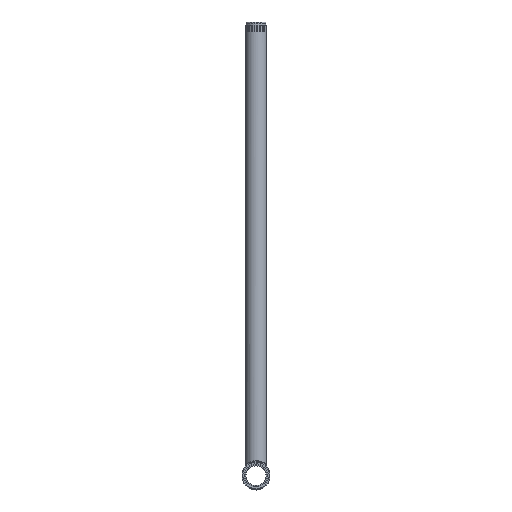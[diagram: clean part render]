
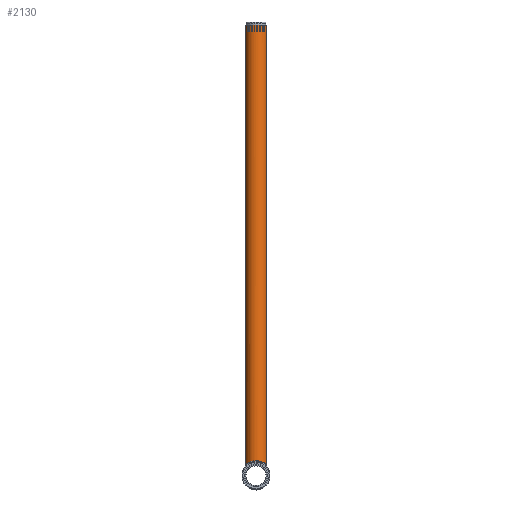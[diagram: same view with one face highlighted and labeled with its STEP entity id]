
A CAD part, top view. The second image highlights one B-rep face of the part: STEP entity #2130.
In plain terms, the highlighted cylindrical face has radius 16.85 mm (diameter 33.7 mm), a full revolution.
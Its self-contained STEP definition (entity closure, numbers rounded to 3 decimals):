
#122=FACE_BOUND('',#640,.T.);
#197=B_SPLINE_CURVE_WITH_KNOTS('',3,(#8190,#8191,#8192,#8193,#8194,#8195,
#8196,#8197,#8198,#8199,#8200,#8201,#8202,#8203,#8204,#8205,#8206,#8207,
#8208,#8209,#8210,#8211),.UNSPECIFIED.,.F.,.F.,(4,2,2,2,2,2,2,2,2,2,4),
(1.04,1.379,1.714,2.048,2.383,
2.717,3.052,3.386,3.721,4.056,
4.395),.UNSPECIFIED.);
#199=B_SPLINE_CURVE_WITH_KNOTS('',3,(#8241,#8242,#8243,#8244,#8245,#8246,
#8247,#8248,#8249,#8250,#8251,#8252,#8253,#8254,#8255,#8256,#8257,#8258,
#8259,#8260,#8261,#8262),.UNSPECIFIED.,.F.,.F.,(4,2,2,2,2,2,2,2,2,2,4),
(6.475,6.814,7.149,7.483,7.818,
8.152,8.487,8.821,9.156,9.49,
9.829),.UNSPECIFIED.);
#238=CYLINDRICAL_SURFACE('',#2309,16.85);
#355=CIRCLE('',#2304,16.85);
#359=CIRCLE('',#2310,16.85);
#360=CIRCLE('',#2311,16.85);
#488=FACE_OUTER_BOUND('',#639,.T.);
#639=EDGE_LOOP('',(#1801,#1802,#1803,#1804));
#640=EDGE_LOOP('',(#1805));
#1076=VERTEX_POINT('',#8188);
#1077=VERTEX_POINT('',#8189);
#1080=VERTEX_POINT('',#8239);
#1081=VERTEX_POINT('',#8240);
#1085=VERTEX_POINT('',#8298);
#1331=EDGE_CURVE('',#1076,#1077,#197,.T.);
#1335=EDGE_CURVE('',#1080,#1081,#199,.T.);
#1339=EDGE_CURVE('',#1080,#1077,#355,.T.);
#1343=EDGE_CURVE('',#1076,#1081,#359,.T.);
#1344=EDGE_CURVE('',#1085,#1085,#360,.T.);
#1801=ORIENTED_EDGE('',*,*,#1335,.T.);
#1802=ORIENTED_EDGE('',*,*,#1343,.F.);
#1803=ORIENTED_EDGE('',*,*,#1331,.T.);
#1804=ORIENTED_EDGE('',*,*,#1339,.F.);
#1805=ORIENTED_EDGE('',*,*,#1344,.F.);
#2130=ADVANCED_FACE('',(#488,#122),#238,.T.);
#2304=AXIS2_PLACEMENT_3D('',#8290,#2711,#2712);
#2309=AXIS2_PLACEMENT_3D('',#8296,#2721,#2722);
#2310=AXIS2_PLACEMENT_3D('',#8297,#2723,#2724);
#2311=AXIS2_PLACEMENT_3D('',#8299,#2725,#2726);
#2711=DIRECTION('center_axis',(0.,0.,1.));
#2712=DIRECTION('ref_axis',(-1.,0.,0.));
#2721=DIRECTION('center_axis',(0.,0.,1.));
#2722=DIRECTION('ref_axis',(-1.,0.,0.));
#2723=DIRECTION('center_axis',(0.,0.,1.));
#2724=DIRECTION('ref_axis',(-1.,0.,0.));
#2725=DIRECTION('center_axis',(0.,0.,-1.));
#2726=DIRECTION('ref_axis',(-1.,0.,0.));
#8188=CARTESIAN_POINT('',(-9.512,-13.908,709.));
#8189=CARTESIAN_POINT('',(-9.512,13.908,709.));
#8190=CARTESIAN_POINT('Ctrl Pts',(-9.512,-13.908,709.));
#8191=CARTESIAN_POINT('Ctrl Pts',(-10.388,-13.309,708.479));
#8192=CARTESIAN_POINT('Ctrl Pts',(-11.194,-12.635,707.954));
#8193=CARTESIAN_POINT('Ctrl Pts',(-12.625,-11.204,706.982));
#8194=CARTESIAN_POINT('Ctrl Pts',(-13.305,-10.395,706.497));
#8195=CARTESIAN_POINT('Ctrl Pts',(-14.523,-8.612,705.602));
#8196=CARTESIAN_POINT('Ctrl Pts',(-15.062,-7.636,705.193));
#8197=CARTESIAN_POINT('Ctrl Pts',(-15.942,-5.572,704.516));
#8198=CARTESIAN_POINT('Ctrl Pts',(-16.283,-4.48,704.248));
#8199=CARTESIAN_POINT('Ctrl Pts',(-16.738,-2.252,703.89));
#8200=CARTESIAN_POINT('Ctrl Pts',(-16.85,-1.115,703.8));
#8201=CARTESIAN_POINT('Ctrl Pts',(-16.85,1.115,703.8));
#8202=CARTESIAN_POINT('Ctrl Pts',(-16.738,2.252,703.89));
#8203=CARTESIAN_POINT('Ctrl Pts',(-16.283,4.48,704.248));
#8204=CARTESIAN_POINT('Ctrl Pts',(-15.942,5.572,704.516));
#8205=CARTESIAN_POINT('Ctrl Pts',(-15.062,7.636,705.193));
#8206=CARTESIAN_POINT('Ctrl Pts',(-14.523,8.612,705.602));
#8207=CARTESIAN_POINT('Ctrl Pts',(-13.305,10.395,706.497));
#8208=CARTESIAN_POINT('Ctrl Pts',(-12.625,11.204,706.982));
#8209=CARTESIAN_POINT('Ctrl Pts',(-11.194,12.635,707.954));
#8210=CARTESIAN_POINT('Ctrl Pts',(-10.388,13.309,708.479));
#8211=CARTESIAN_POINT('Ctrl Pts',(-9.512,13.908,709.));
#8239=CARTESIAN_POINT('',(9.512,13.908,709.));
#8240=CARTESIAN_POINT('',(9.512,-13.908,709.));
#8241=CARTESIAN_POINT('Ctrl Pts',(9.512,13.908,709.));
#8242=CARTESIAN_POINT('Ctrl Pts',(10.388,13.309,708.479));
#8243=CARTESIAN_POINT('Ctrl Pts',(11.194,12.635,707.954));
#8244=CARTESIAN_POINT('Ctrl Pts',(12.625,11.204,706.982));
#8245=CARTESIAN_POINT('Ctrl Pts',(13.305,10.395,706.497));
#8246=CARTESIAN_POINT('Ctrl Pts',(14.523,8.612,705.602));
#8247=CARTESIAN_POINT('Ctrl Pts',(15.062,7.636,705.193));
#8248=CARTESIAN_POINT('Ctrl Pts',(15.942,5.572,704.516));
#8249=CARTESIAN_POINT('Ctrl Pts',(16.283,4.48,704.248));
#8250=CARTESIAN_POINT('Ctrl Pts',(16.738,2.252,703.89));
#8251=CARTESIAN_POINT('Ctrl Pts',(16.85,1.115,703.8));
#8252=CARTESIAN_POINT('Ctrl Pts',(16.85,-1.115,703.8));
#8253=CARTESIAN_POINT('Ctrl Pts',(16.738,-2.252,703.89));
#8254=CARTESIAN_POINT('Ctrl Pts',(16.283,-4.48,704.248));
#8255=CARTESIAN_POINT('Ctrl Pts',(15.942,-5.572,704.516));
#8256=CARTESIAN_POINT('Ctrl Pts',(15.062,-7.636,705.193));
#8257=CARTESIAN_POINT('Ctrl Pts',(14.523,-8.612,705.602));
#8258=CARTESIAN_POINT('Ctrl Pts',(13.305,-10.395,706.497));
#8259=CARTESIAN_POINT('Ctrl Pts',(12.625,-11.204,706.982));
#8260=CARTESIAN_POINT('Ctrl Pts',(11.194,-12.635,707.954));
#8261=CARTESIAN_POINT('Ctrl Pts',(10.388,-13.309,708.479));
#8262=CARTESIAN_POINT('Ctrl Pts',(9.512,-13.908,709.));
#8290=CARTESIAN_POINT('Origin',(0.,0.,709.));
#8296=CARTESIAN_POINT('Origin',(0.,0.,0.));
#8297=CARTESIAN_POINT('Origin',(0.,0.,709.));
#8298=CARTESIAN_POINT('',(16.85,0.,0.));
#8299=CARTESIAN_POINT('Origin',(0.,0.,0.));
